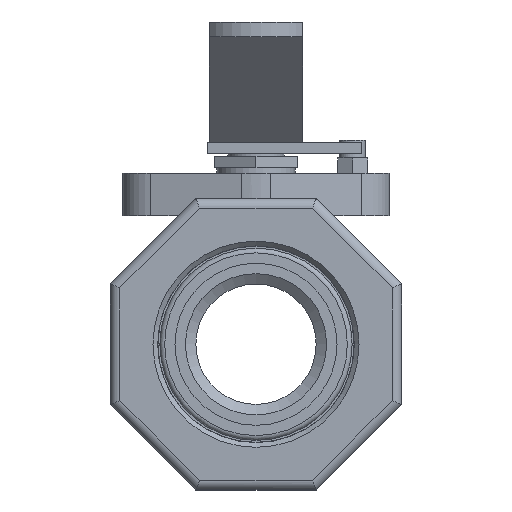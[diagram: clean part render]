
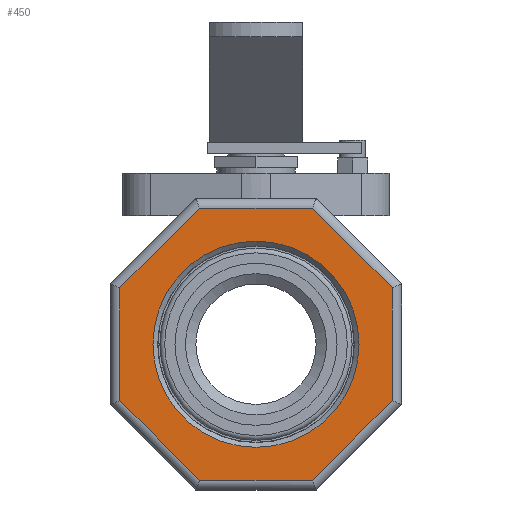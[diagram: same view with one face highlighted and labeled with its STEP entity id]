
A CAD part, left-side view. The second image highlights one B-rep face of the part: STEP entity #450.
In plain terms, the highlighted planar face has unit normal (-1, 0, 0).
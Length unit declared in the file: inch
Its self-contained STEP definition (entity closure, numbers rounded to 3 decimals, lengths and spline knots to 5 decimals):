
#364=CARTESIAN_POINT('',(0.69,1.075,0.0));
#365=VERTEX_POINT('',#364);
#366=CARTESIAN_POINT('',(0.69,0.0,0.0));
#367=DIRECTION('',(-1.0,0.0,0.0));
#368=DIRECTION('',(0.0,-1.0,0.0));
#369=AXIS2_PLACEMENT_3D('',#366,#367,#368);
#370=CIRCLE('',#369,1.075);
#371=EDGE_CURVE('',#365,#365,#370,.T.);
#376=CARTESIAN_POINT('',(0.69,0.0,0.0));
#377=DIRECTION('',(1.0,0.0,0.0));
#378=DIRECTION('',(0.0,0.0,-1.0));
#379=AXIS2_PLACEMENT_3D('',#376,#377,#378);
#380=PLANE('',#379);
#381=CARTESIAN_POINT('',(0.69,1.42,-0.58818));
#382=VERTEX_POINT('',#381);
#383=CARTESIAN_POINT('',(0.69,1.42,0.58818));
#384=VERTEX_POINT('',#383);
#385=CARTESIAN_POINT('',(0.69,1.42,-0.58818));
#386=DIRECTION('',(0.0,0.0,1.0));
#387=VECTOR('',#386,1.17637);
#388=LINE('',#385,#387);
#389=EDGE_CURVE('',#382,#384,#388,.T.);
#390=ORIENTED_EDGE('',*,*,#389,.F.);
#391=CARTESIAN_POINT('',(0.69,0.58818,-1.42));
#392=VERTEX_POINT('',#391);
#393=CARTESIAN_POINT('',(0.69,0.58818,-1.42));
#394=DIRECTION('',(0.0,0.707,0.707));
#395=VECTOR('',#394,1.17637);
#396=LINE('',#393,#395);
#397=EDGE_CURVE('',#392,#382,#396,.T.);
#398=ORIENTED_EDGE('',*,*,#397,.F.);
#399=CARTESIAN_POINT('',(0.69,-0.58818,-1.42));
#400=VERTEX_POINT('',#399);
#401=CARTESIAN_POINT('',(0.69,-0.58818,-1.42));
#402=DIRECTION('',(0.0,1.0,0.0));
#403=VECTOR('',#402,1.17637);
#404=LINE('',#401,#403);
#405=EDGE_CURVE('',#400,#392,#404,.T.);
#406=ORIENTED_EDGE('',*,*,#405,.F.);
#407=CARTESIAN_POINT('',(0.69,-1.42,-0.58818));
#408=VERTEX_POINT('',#407);
#409=CARTESIAN_POINT('',(0.69,-1.42,-0.58818));
#410=DIRECTION('',(0.0,0.707,-0.707));
#411=VECTOR('',#410,1.17637);
#412=LINE('',#409,#411);
#413=EDGE_CURVE('',#408,#400,#412,.T.);
#414=ORIENTED_EDGE('',*,*,#413,.F.);
#415=CARTESIAN_POINT('',(0.69,-1.42,0.58818));
#416=VERTEX_POINT('',#415);
#417=CARTESIAN_POINT('',(0.69,-1.42,0.58818));
#418=DIRECTION('',(0.0,0.0,-1.0));
#419=VECTOR('',#418,1.17637);
#420=LINE('',#417,#419);
#421=EDGE_CURVE('',#416,#408,#420,.T.);
#422=ORIENTED_EDGE('',*,*,#421,.F.);
#423=CARTESIAN_POINT('',(0.69,-0.58818,1.42));
#424=VERTEX_POINT('',#423);
#425=CARTESIAN_POINT('',(0.69,-0.58818,1.42));
#426=DIRECTION('',(0.0,-0.707,-0.707));
#427=VECTOR('',#426,1.17637);
#428=LINE('',#425,#427);
#429=EDGE_CURVE('',#424,#416,#428,.T.);
#430=ORIENTED_EDGE('',*,*,#429,.F.);
#431=CARTESIAN_POINT('',(0.69,0.58818,1.42));
#432=VERTEX_POINT('',#431);
#433=CARTESIAN_POINT('',(0.69,0.58818,1.42));
#434=DIRECTION('',(0.0,-1.0,0.0));
#435=VECTOR('',#434,1.17637);
#436=LINE('',#433,#435);
#437=EDGE_CURVE('',#432,#424,#436,.T.);
#438=ORIENTED_EDGE('',*,*,#437,.F.);
#439=CARTESIAN_POINT('',(0.69,1.42,0.58818));
#440=DIRECTION('',(0.0,-0.707,0.707));
#441=VECTOR('',#440,1.17637);
#442=LINE('',#439,#441);
#443=EDGE_CURVE('',#384,#432,#442,.T.);
#444=ORIENTED_EDGE('',*,*,#443,.F.);
#445=EDGE_LOOP('',(#390,#398,#406,#414,#422,#430,#438,#444));
#446=FACE_OUTER_BOUND('',#445,.T.);
#447=ORIENTED_EDGE('',*,*,#371,.F.);
#448=EDGE_LOOP('',(#447));
#449=FACE_BOUND('',#448,.T.);
#450=ADVANCED_FACE('',(#446,#449),#380,.F.);
